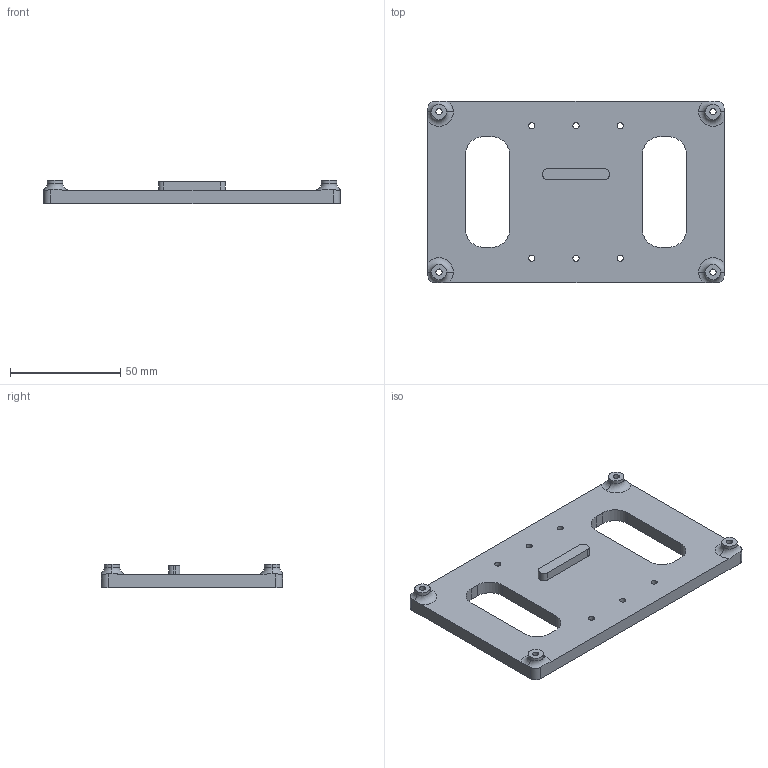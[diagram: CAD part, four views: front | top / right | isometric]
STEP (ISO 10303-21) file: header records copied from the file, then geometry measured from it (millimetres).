
FILE_DESCRIPTION((''),'2;1');
FILE_NAME('0002','2025-05-22T13:51:32',('Mayn'),(''),'CREO PARAMETRIC BY PTC INC, 2024063','CREO PARAMETRIC BY PTC INC, 2024063','');
FILE_SCHEMA(('CONFIG_CONTROL_DESIGN'));
Length unit declared in the file: millimetre
Products named in the file (1): 0002
Bounding box: 134 x 82 x 10.5 mm (x, y, z)
Volume: 55533.7 mm3; surface area: 23399.2 mm2
Topology: 1 solids, 1 shells, 75 faces, 208 edges, 136 vertices
Faces by surface type: cylinder 44, plane 23, torus 8
Entity records: 2588 total; most frequent: CARTESIAN_POINT 515, DIRECTION 442, ORIENTED_EDGE 416, EDGE_CURVE 208, AXIS2_PLACEMENT_3D 175, VERTEX_POINT 136, EDGE_LOOP 100, CIRCLE 100
